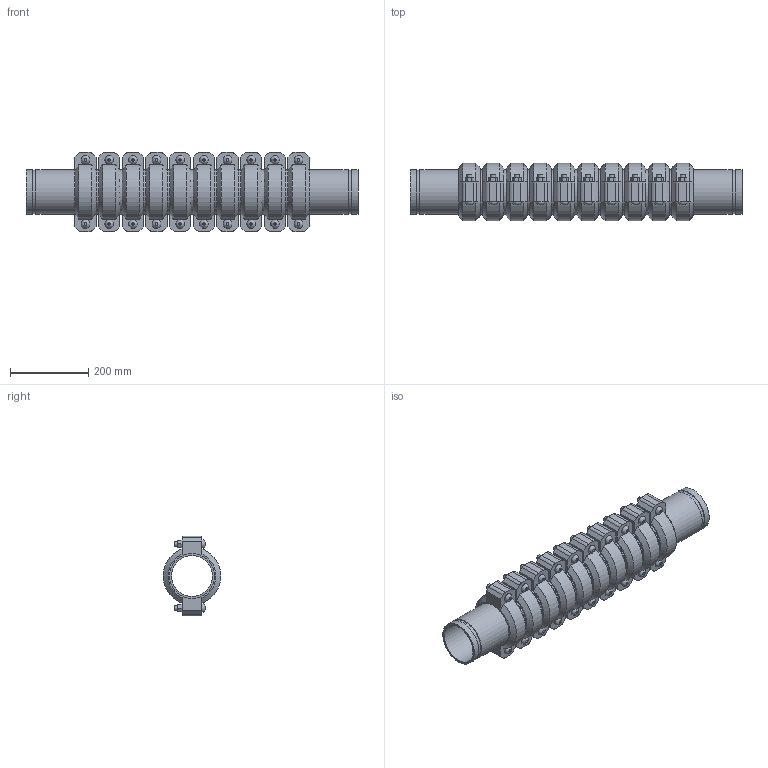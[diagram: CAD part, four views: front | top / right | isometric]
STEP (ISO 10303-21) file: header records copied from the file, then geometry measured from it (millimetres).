
FILE_DESCRIPTION(/* description */ ('VIC EXPANSION JOINT 10 COUPLINGS COMPRESSED STYLE 155 (OGS)','CAx-IF Rec.Pracs.---Representation and Presentation of Product Manufacturing Information (PMI)---4.0---2014-10-13'),/* implementation_level */ '2;1');
FILE_NAME(/* name */ 'C:\Users\kkamble\AppData\Roaming\Autodesk\ApplicationPlugins\Victaulic.Temp\A539\Victaulic_IPS_Expansion Joint_Compressed_10 Couplings_Style 155 (OGS)_4 (100).stp',/* time_stamp */ '2021-06-27T00:16:44+02:00',/* author */ ('kkamble'),/* organization */ ('Victaulic'),/* preprocessor_version */ 'ST-DEVELOPER v17.2',/* originating_system */ 'Autodesk Inventor 2019',/* authorisation */ '');
FILE_SCHEMA (('AP242_MANAGED_MODEL_BASED_3D_ENGINEERING_MIM_LF { 1 0 10303 442 1 1 4 }'));
Length unit declared in the file: inch
Products named in the file (4): 155-04.0; Nipple-04.0; Nipple-04.0_1; 075_10_Coup-04.0
Assembly tree (21 placements, depth 2):
  155-04.0
    Nipple-04.0  x2
    Nipple-04.0_1  x9
    075_10_Coup-04.0  x10
Bounding box: 848.11 x 147.32 x 203.96 mm (x, y, z)
Volume: 6137962 mm3; surface area: 1427704.2 mm2
Topology: 21 solids, 41 shells, 702 faces, 1660 edges, 1164 vertices
Faces by surface type: plane 426, cylinder 216, cone 40, bspline 20
Full cylindrical faces by diameter (mm): 12.7 x40, 14.605 x20, 103.988 x11, 107.95 x10, 110.084 x22, 114.3 x53
Entity records: 2890 total; most frequent: CARTESIAN_POINT 505, DIRECTION 485, ORIENTED_EDGE 386, AXIS2_PLACEMENT_3D 196, EDGE_CURVE 193, VERTEX_POINT 138, EDGE_LOOP 107, LINE 93
